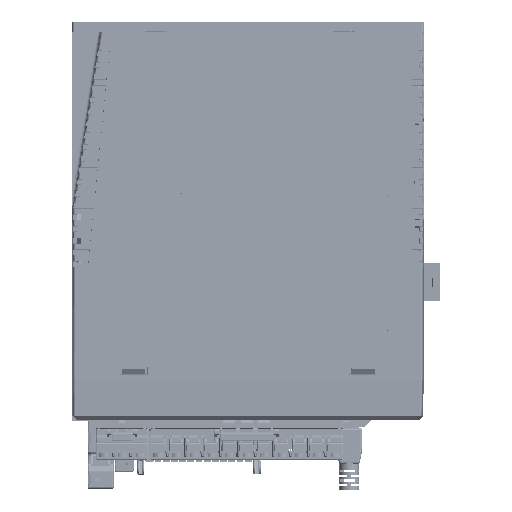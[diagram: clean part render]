
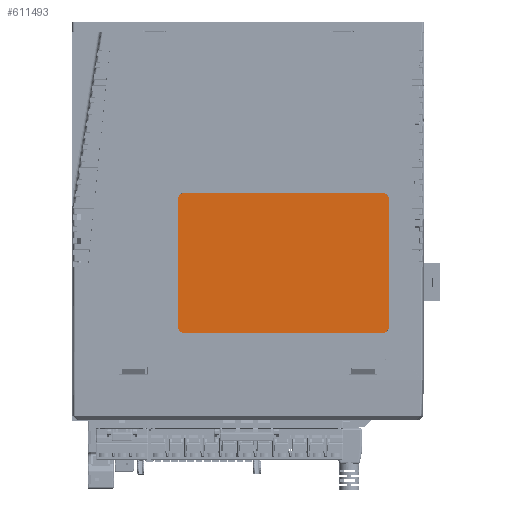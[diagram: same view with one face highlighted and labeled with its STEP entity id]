
A CAD part, front view. The second image highlights one B-rep face of the part: STEP entity #611493.
In plain terms, the highlighted planar face has unit normal (0, -1, 0).
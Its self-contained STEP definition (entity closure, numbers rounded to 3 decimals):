
#567477=DIRECTION('',(1.,0.,0.));
#567478=VECTOR('',#567477,84.);
#567479=CARTESIAN_POINT('',(-25.695,-32.339,
182.202));
#567480=LINE('',#567479,#567478);
#567481=CARTESIAN_POINT('',(58.305,-32.339,
179.202));
#567482=DIRECTION('',(0.,1.,0.));
#567483=DIRECTION('',(0.,0.,1.));
#567484=AXIS2_PLACEMENT_3D('',#567481,#567482,#567483);
#567486=DIRECTION('',(0.,0.,-1.));
#567487=VECTOR('',#567486,54.);
#567488=CARTESIAN_POINT('',(61.305,-32.339,
179.202));
#567489=LINE('',#567488,#567487);
#567490=CARTESIAN_POINT('',(58.305,-32.339,
125.202));
#567491=DIRECTION('',(0.,1.,0.));
#567492=DIRECTION('',(1.,0.,0.));
#567493=AXIS2_PLACEMENT_3D('',#567490,#567491,#567492);
#567495=DIRECTION('',(-1.,0.,0.));
#567496=VECTOR('',#567495,84.);
#567497=CARTESIAN_POINT('',(58.305,-32.339,
122.202));
#567498=LINE('',#567497,#567496);
#567499=CARTESIAN_POINT('',(-25.695,-32.339,
125.202));
#567500=DIRECTION('',(0.,1.,0.));
#567501=DIRECTION('',(0.,0.,-1.));
#567502=AXIS2_PLACEMENT_3D('',#567499,#567500,#567501);
#567504=DIRECTION('',(0.,0.,1.));
#567505=VECTOR('',#567504,54.);
#567506=CARTESIAN_POINT('',(-28.695,-32.339,
125.202));
#567507=LINE('',#567506,#567505);
#567508=CARTESIAN_POINT('',(-25.695,-32.339,
179.202));
#567509=DIRECTION('',(0.,1.,0.));
#567510=DIRECTION('',(-1.,0.,0.));
#567511=AXIS2_PLACEMENT_3D('',#567508,#567509,#567510);
#579754=CARTESIAN_POINT('',(61.305,-32.339,
125.202));
#579755=VERTEX_POINT('',#579754);
#579756=CARTESIAN_POINT('',(58.305,-32.339,
122.202));
#579757=VERTEX_POINT('',#579756);
#579758=CARTESIAN_POINT('',(61.305,-32.339,
179.202));
#579759=VERTEX_POINT('',#579758);
#579760=CARTESIAN_POINT('',(-25.695,-32.339,
182.202));
#579761=CARTESIAN_POINT('',(58.305,-32.339,
182.202));
#579762=VERTEX_POINT('',#579760);
#579763=VERTEX_POINT('',#579761);
#579764=CARTESIAN_POINT('',(-25.695,-32.339,
122.202));
#579765=VERTEX_POINT('',#579764);
#579766=CARTESIAN_POINT('',(-28.695,-32.339,
125.202));
#579767=VERTEX_POINT('',#579766);
#579768=CARTESIAN_POINT('',(-28.695,-32.339,
179.202));
#579769=VERTEX_POINT('',#579768);
#611472=CARTESIAN_POINT('',(16.305,-32.339,
152.202));
#611473=DIRECTION('',(0.,1.,0.));
#611474=DIRECTION('',(1.,0.,0.));
#611475=AXIS2_PLACEMENT_3D('',#611472,#611473,#611474);
#611476=PLANE('',#611475);
#611478=ORIENTED_EDGE('',*,*,#611477,.T.);
#611480=ORIENTED_EDGE('',*,*,#611479,.T.);
#611481=ORIENTED_EDGE('',*,*,#611464,.T.);
#611482=ORIENTED_EDGE('',*,*,#611453,.T.);
#611484=ORIENTED_EDGE('',*,*,#611483,.T.);
#611486=ORIENTED_EDGE('',*,*,#611485,.T.);
#611488=ORIENTED_EDGE('',*,*,#611487,.T.);
#611490=ORIENTED_EDGE('',*,*,#611489,.T.);
#611491=EDGE_LOOP('',(#611478,#611480,#611481,#611482,#611484,#611486,#611488,
#611490));
#611492=FACE_OUTER_BOUND('',#611491,.F.);
#611493=ADVANCED_FACE('',(#611492),#611476,.F.);
#567485=CIRCLE('',#567484,3.);
#567494=CIRCLE('',#567493,3.);
#567503=CIRCLE('',#567502,3.);
#567512=CIRCLE('',#567511,3.);
#611453=EDGE_CURVE('',#579755,#579757,#567494,.T.);
#611464=EDGE_CURVE('',#579759,#579755,#567489,.T.);
#611477=EDGE_CURVE('',#579762,#579763,#567480,.T.);
#611479=EDGE_CURVE('',#579763,#579759,#567485,.T.);
#611483=EDGE_CURVE('',#579757,#579765,#567498,.T.);
#611485=EDGE_CURVE('',#579765,#579767,#567503,.T.);
#611487=EDGE_CURVE('',#579767,#579769,#567507,.T.);
#611489=EDGE_CURVE('',#579769,#579762,#567512,.T.);
